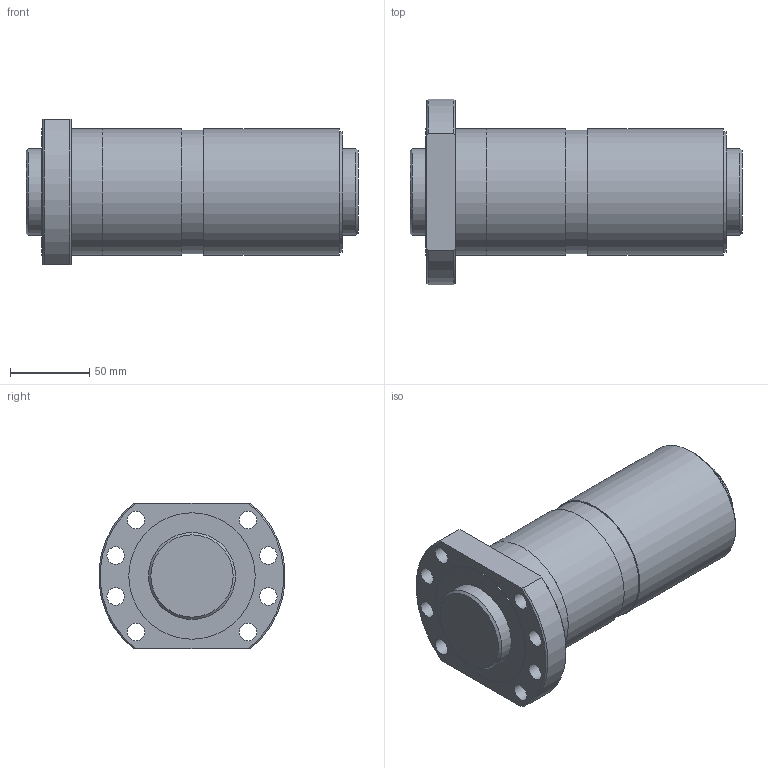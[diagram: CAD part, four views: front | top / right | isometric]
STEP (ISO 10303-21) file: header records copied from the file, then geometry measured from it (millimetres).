
FILE_DESCRIPTION(/* description */ ('STEP AP203'),/* implementation_level */ '2;1');
FILE_NAME(/* name */ 'SDAN5520VX-4G0+210LC0(0G000)',/* time_stamp */ '2024-07-04T10:22:27+02:00',/* author */ ('License CC BY-ND 4.0'),/* organization */ ('CADENAS'),/* preprocessor_version */ 'ST-DEVELOPER v19.3',/* originating_system */ 'PARTsolutions',/* authorisation */ ' ');
FILE_SCHEMA (('CONFIG_CONTROL_DESIGN'));
Length unit declared in the file: millimetre
Products named in the file (3): SDAN5520VX-4G0+210LC0(0G000); 0SDAN5520VX-40Shaft; SDAN5520VX-4_nut
Assembly tree (2 placements, depth 2):
  SDAN5520VX-4G0+210LC0(0G000)
    0SDAN5520VX-40Shaft
    SDAN5520VX-4_nut
Bounding box: 210 x 117.61 x 92 mm (x, y, z)
Volume: 1066364.2 mm3; surface area: 142386.9 mm2
Topology: 2 solids, 2 shells, 41 faces, 95 edges, 65 vertices
Faces by surface type: cylinder 21, plane 13, cone 7
Full cylindrical faces by diameter (mm): 5.2 x1, 6.917 x1, 11 x8, 55 x2, 76.4 x1, 78 x1, 78.4 x1, 80 x4
Entity records: 1143 total; most frequent: CARTESIAN_POINT 208, DIRECTION 188, ORIENTED_EDGE 128, EDGE_LOOP 90, FACE_BOUND 90, AXIS2_PLACEMENT_3D 90, EDGE_CURVE 64, VERTEX_POINT 56
